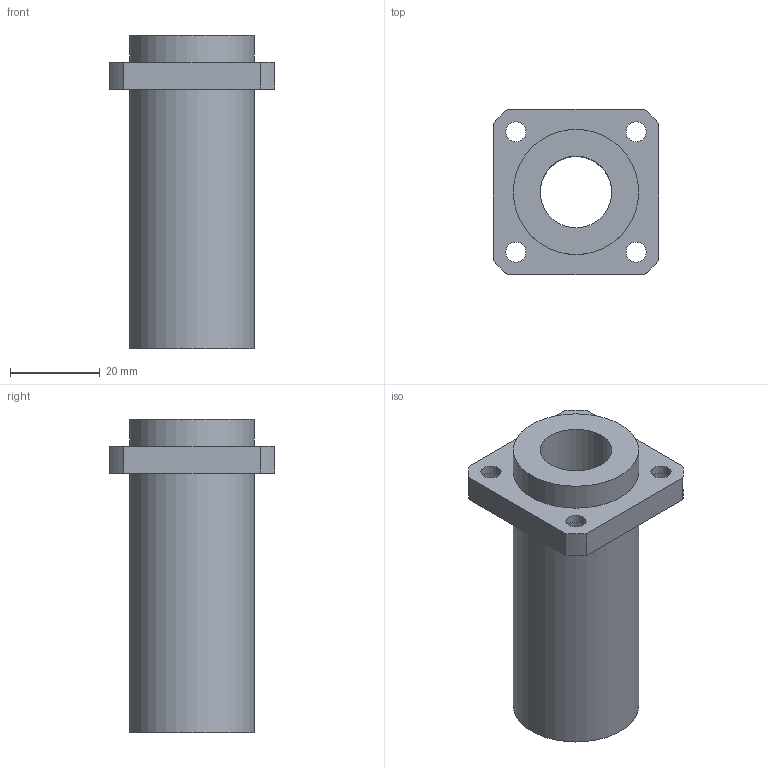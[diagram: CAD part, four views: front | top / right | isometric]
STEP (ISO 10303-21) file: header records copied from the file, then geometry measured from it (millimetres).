
FILE_DESCRIPTION(/* description */ (''),/* implementation_level */ '2;1');
FILE_NAME(/* name */ 'LMKP16LUU',/* time_stamp */ '2019-07-10T14:02:24+02:00',/* author */ ('VĂ©gh MĂˇtĂ©'),/* organization */ ('Bearing Kft'),/* preprocessor_version */ 'ST-DEVELOPER v16.7',/* originating_system */ 'DEX',/* authorisation */ $);
FILE_SCHEMA (('AUTOMOTIVE_DESIGN {1 0 10303 214 3 1 1}'));
Length unit declared in the file: millimetre
Products named in the file (1): LMKP16LUU
Bounding box: 37 x 37 x 70 mm (x, y, z)
Volume: 32585.4 mm3; surface area: 12669 mm2
Topology: 1 solids, 1 shells, 346 faces, 871 edges, 582 vertices
Faces by surface type: plane 265, bspline 63, cylinder 18
Full cylindrical faces by diameter (mm): 4.5 x4, 7.5 x4, 16 x1, 28 x2
Entity records: 12898 total; most frequent: CARTESIAN_POINT 4986, ORIENTED_EDGE 1708, DIRECTION 1332, EDGE_CURVE 854, LINE 692, VECTOR 692, VERTEX_POINT 578, EDGE_LOOP 424
